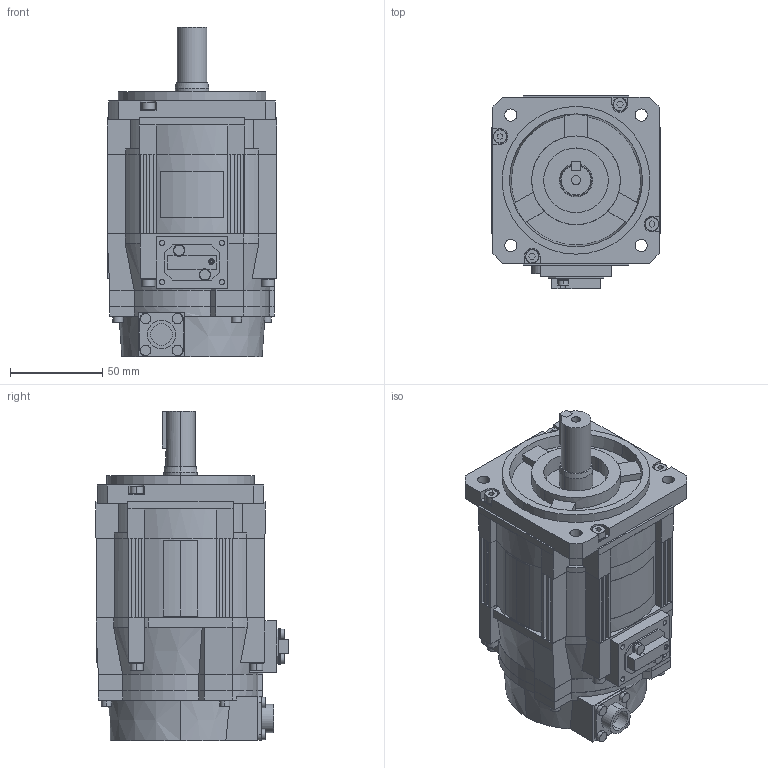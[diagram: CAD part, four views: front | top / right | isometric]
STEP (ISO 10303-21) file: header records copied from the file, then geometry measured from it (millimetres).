
FILE_DESCRIPTION (( 'STEP AP203' ), '1' );
FILE_NAME ('sgmgv_05__a61.STEP', '2009-02-06T06:13:50', ( 'T' ), ( 'T' ), 'SwSTEP 2.0', 'SolidWorks 2006052', '' );
FILE_SCHEMA (( 'CONFIG_CONTROL_DESIGN' ));
Length unit declared in the file: millimetre
Products named in the file (3): sgmgv_05__a61_key; sgmgv_05__a61_base; sgmgv_05__a61
Assembly tree (2 placements, depth 2):
  sgmgv_05__a61
    sgmgv_05__a61_base
    sgmgv_05__a61_key
Bounding box: 92 x 104.5 x 178.6 mm (x, y, z)
Volume: 937577.5 mm3; surface area: 87600.6 mm2
Topology: 2 solids, 2 shells, 634 faces, 1580 edges, 1021 vertices
Faces by surface type: plane 443, cylinder 170, cone 21
Entity records: 19190 total; most frequent: CARTESIAN_POINT 3448, DIRECTION 3232, ORIENTED_EDGE 3160, EDGE_CURVE 1580, LINE 1124, VECTOR 1124, AXIS2_PLACEMENT_3D 1054, VERTEX_POINT 1021
